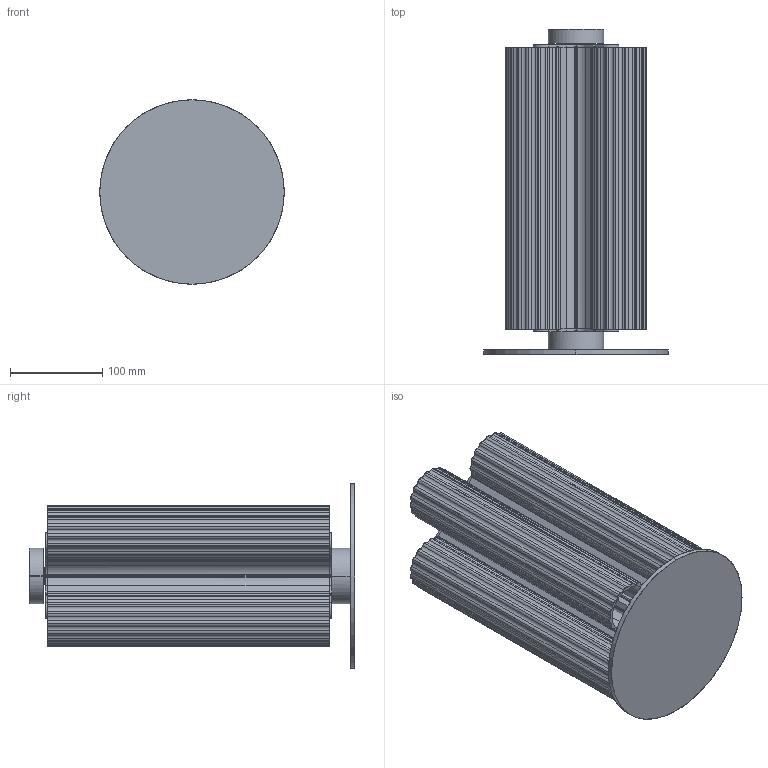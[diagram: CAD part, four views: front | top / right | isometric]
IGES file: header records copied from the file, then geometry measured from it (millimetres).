
Start section: SolidWorks IGES file using analytic representation for surfaces
Global section: file name: \\ARNOLD\compartida\Nueva Coleccion Septiembre 2026\RYST_1369\S1369\3D\RYST_S1359.IGS; native system: SolidWorks 2023; preprocessor: SolidWorks 2023; author: adrian; date: 260828.094134; units: millimetre
Bounding box: 200 x 352.72 x 200 mm (x, y, z)
Surface area: 923523.9 mm2 (no closed solid volume)
Topology: 0 solids, 0 shells, 805 faces, 9182 edges, 9180 vertices
Faces by surface type: bspline 527, revolution 278
